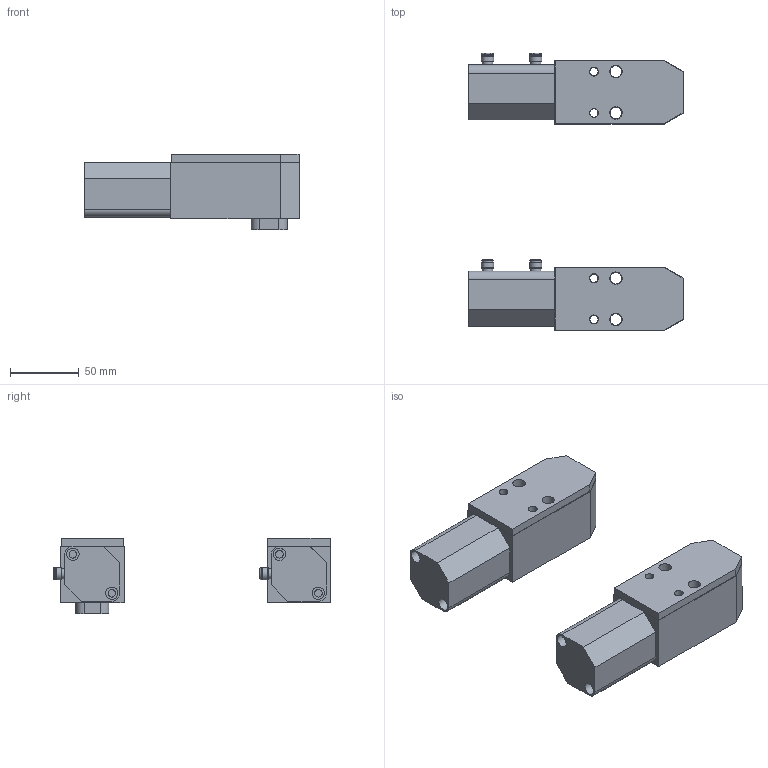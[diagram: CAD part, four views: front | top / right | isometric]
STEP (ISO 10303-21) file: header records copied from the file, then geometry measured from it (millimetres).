
FILE_DESCRIPTION(('STEP AP214'),'1');
FILE_NAME('1002.0010.stp','2020-05-22T14:12:22',(' '),(' '),'Spatial InterOp 3D',' ',' ');
FILE_SCHEMA(('AUTOMOTIVE_DESIGN { 1 0 10303 214 1 1 1 1 }'));
Length unit declared in the file: millimetre
Products named in the file (7): (PMS) 1002.0010; 5; 4; Assemblato; (PMI) 1002.0010; 6; 2
Assembly tree (6 placements, depth 3):
  Assemblato
    (PMS) 1002.0010
      5
      4
    (PMI) 1002.0010
      6
      2
Bounding box: 156 x 201.25 x 55 mm (x, y, z)
Volume: 532435.4 mm3; surface area: 98271 mm2
Topology: 4 solids, 4 shells, 772 faces, 2044 edges, 1360 vertices
Faces by surface type: extrusion 378, plane 270, cylinder 106, torus 12, cone 4, sphere 2
Full cylindrical faces by diameter (mm): 5.5 x4, 6 x4, 6.5 x4, 6.8 x4, 7.5 x8, 8.5 x4, 9 x16, 10 x2, 13.9 x4
Entity records: 30300 total; most frequent: CARTESIAN_POINT 6419, ORIENTED_EDGE 3912, DIRECTION 2612, EDGE_CURVE 1956, VECTOR 1346, VERTEX_POINT 1342, B_SPLINE_CURVE_WITH_KNOTS 1136, LINE 968
